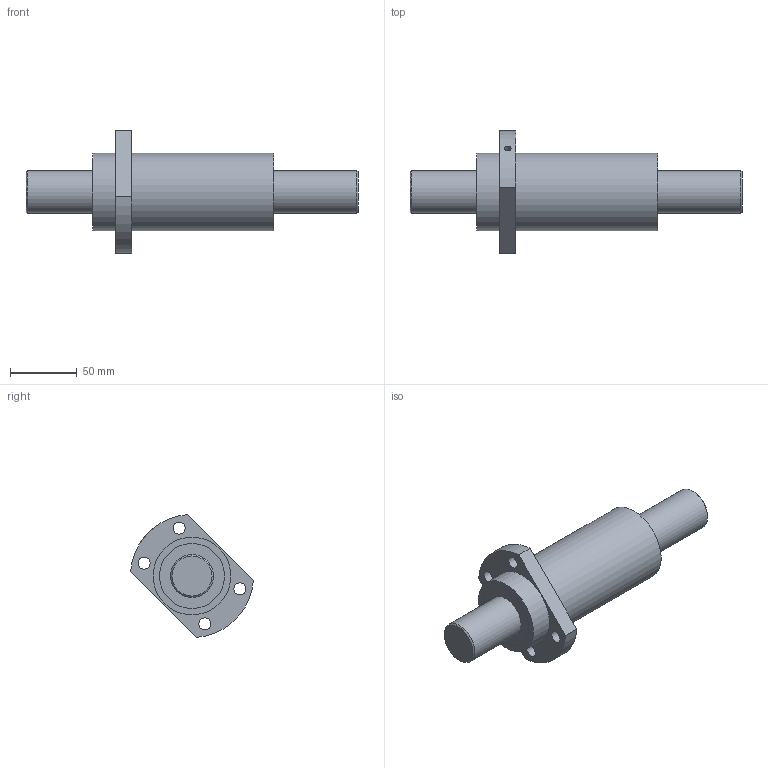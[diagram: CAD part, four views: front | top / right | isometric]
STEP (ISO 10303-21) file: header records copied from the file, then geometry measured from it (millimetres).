
FILE_DESCRIPTION (( 'STEP AP203' ), '1' );
FILE_NAME ('SFY03264-3.6.STEP', '2023-08-17T00:40:06', ( '' ), ( '' ), 'SwSTEP 2.0', 'SolidWorks 2022', '' );
FILE_SCHEMA (( 'CONFIG_CONTROL_DESIGN' ));
Length unit declared in the file: millimetre
Products named in the file (1): SFY03264-3.6
Bounding box: 248 x 91.74 x 91.74 mm (x, y, z)
Volume: 473511.6 mm3; surface area: 84638.9 mm2
Topology: 4 solids, 4 shells, 52 faces, 95 edges, 65 vertices
Faces by surface type: cylinder 27, plane 23, cone 2
Full cylindrical faces by diameter (mm): 4 x1, 5 x1, 9 x4, 32 x4, 42.7 x4, 48.5 x4, 50 x4, 58 x2
Entity records: 1633 total; most frequent: CARTESIAN_POINT 593, DIRECTION 218, ORIENTED_EDGE 124, EDGE_LOOP 106, AXIS2_PLACEMENT_3D 105, FACE_OUTER_BOUND 76, EDGE_CURVE 62, VERTEX_POINT 58
